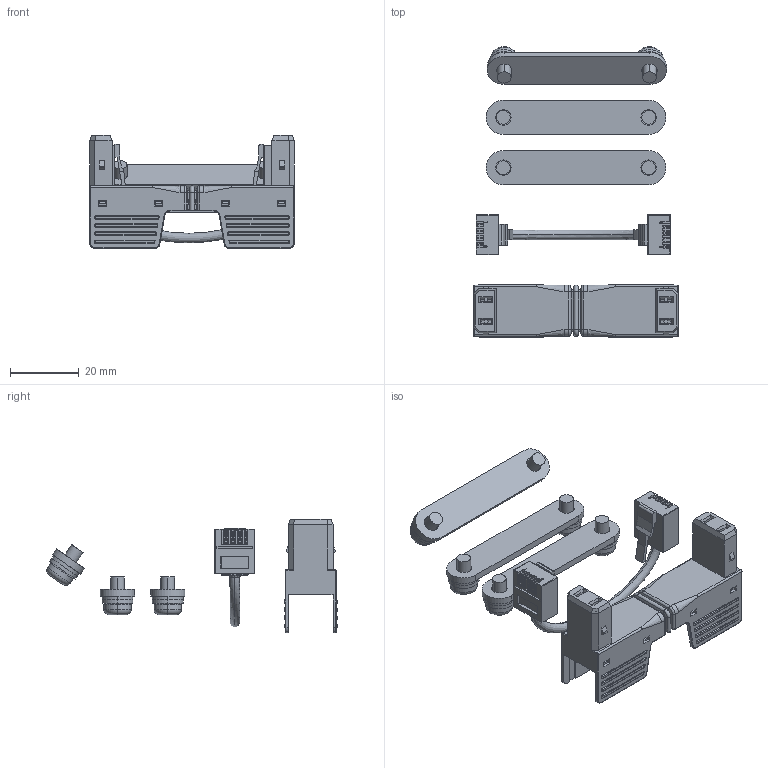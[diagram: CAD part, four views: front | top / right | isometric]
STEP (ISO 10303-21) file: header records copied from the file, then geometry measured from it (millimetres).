
FILE_DESCRIPTION((''),'2;1');
FILE_NAME('9500-1048_MULTIAXIS-KIT-OPT','2018-08-21T11:41:18',('owenrh01'),(''),'CREO PARAMETRIC BY PTC INC, 2017260','CREO PARAMETRIC BY PTC INC, 2017260','');
FILE_SCHEMA(('AUTOMOTIVE_DESIGN { 1 0 10303 214 1 1 1 1 }'));
Products named in the file (1): 9500-1048_MULTIAXIS-KIT-OPT
Bounding box: 59.7 x 84.85 x 33.05 mm (x, y, z)
Surface area: 22599 mm2 (no closed solid volume)
Topology: 0 solids, 63 shells, 1760 faces, 5799 edges, 3914 vertices
Faces by surface type: plane 1038, cylinder 542, torus 58, sphere 52, cone 36, bspline 26, extrusion 8
Entity records: 72426 total; most frequent: CARTESIAN_POINT 14064, DIRECTION 10576, ORIENTED_EDGE 9442, EDGE_CURVE 5747, VERTEX_POINT 3914, VECTOR 3778, LINE 3770, AXIS2_PLACEMENT_3D 3399
